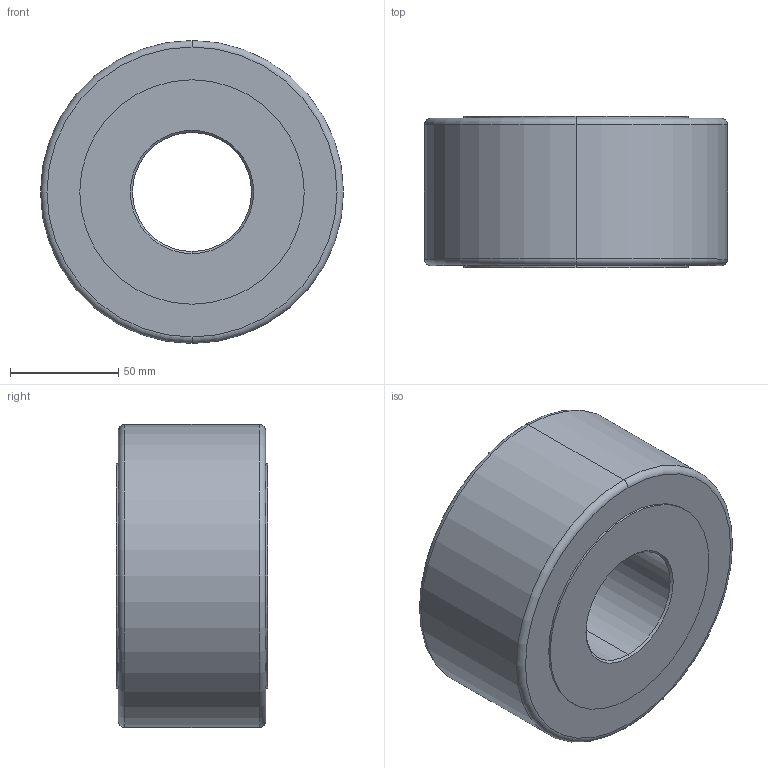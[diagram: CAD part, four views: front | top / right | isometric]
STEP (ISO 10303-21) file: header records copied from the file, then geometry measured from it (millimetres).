
FILE_DESCRIPTION (( 'STEP AP214' ), '1' );
FILE_NAME ('3DRSU55-140.STEP', '2013-12-19T09:31:58', ( 'usuario' ), ( 'Hewlett-Packard Company' ), 'SwSTEP 2.0', 'SolidWorks 2017', '' );
FILE_SCHEMA (( 'AUTOMOTIVE_DESIGN' ));
Length unit declared in the file: millimetre
Products named in the file (1): 3DRSU55-140
Bounding box: 140 x 70 x 140 mm (x, y, z)
Volume: 895497.5 mm3; surface area: 67350 mm2
Topology: 1 solids, 1 shells, 20 faces, 40 edges, 24 vertices
Faces by surface type: cylinder 8, torus 4, cone 4, plane 4
Entity records: 566 total; most frequent: DIRECTION 110, CARTESIAN_POINT 85, ORIENTED_EDGE 80, AXIS2_PLACEMENT_3D 49, EDGE_CURVE 40, CIRCLE 28, EDGE_LOOP 24, VERTEX_POINT 24
